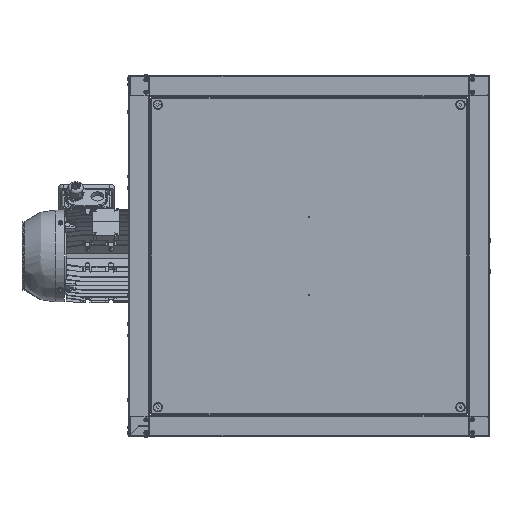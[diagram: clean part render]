
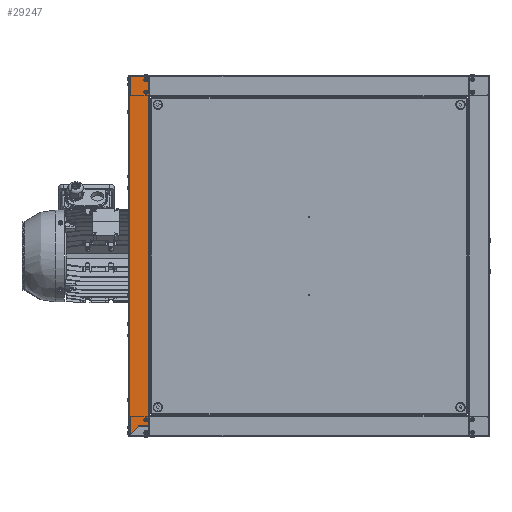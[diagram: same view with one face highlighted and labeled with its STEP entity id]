
A CAD part, left-side view. The second image highlights one B-rep face of the part: STEP entity #29247.
In plain terms, the highlighted planar face has unit normal (-1, 0, 0).
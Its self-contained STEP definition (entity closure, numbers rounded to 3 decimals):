
#1865 = EDGE_CURVE ( 'NONE', #81072, #49038, #36301, .T. ) ;
#3339 = LINE ( 'NONE', #57559, #93650 ) ;
#3594 = EDGE_CURVE ( 'NONE', #112916, #50335, #20878, .T. ) ;
#5886 = CARTESIAN_POINT ( 'NONE',  ( -350., 310.2, -310.05 ) ) ;
#7167 = DIRECTION ( 'NONE',  ( 0., -1., 0. ) ) ;
#7686 = CARTESIAN_POINT ( 'NONE',  ( -350., 318.1, 341.7 ) ) ;
#8093 = EDGE_LOOP ( 'NONE', ( #74028, #11283, #30084, #92585, #20680, #22820, #30484, #86463, #44252 ) ) ;
#9544 = LINE ( 'NONE', #47205, #27320 ) ;
#10149 = CARTESIAN_POINT ( 'NONE',  ( -350., 318.1, -317.2 ) ) ;
#10709 = LINE ( 'NONE', #59144, #77869 ) ;
#11283 = ORIENTED_EDGE ( 'NONE', *, *, #54176, .T. ) ;
#13090 = EDGE_CURVE ( 'NONE', #89307, #112494, #35640, .T. ) ;
#15229 = CARTESIAN_POINT ( 'NONE',  ( -350., 310.2, -329.1 ) ) ;
#18220 = LINE ( 'NONE', #107096, #108548 ) ;
#19171 = VERTEX_POINT ( 'NONE', #66068 ) ;
#20646 = EDGE_CURVE ( 'NONE', #55313, #104976, #113589, .T. ) ;
#20680 = ORIENTED_EDGE ( 'NONE', *, *, #79487, .T. ) ;
#20878 = CIRCLE ( 'NONE', #48992, 2.1 ) ;
#21362 = DIRECTION ( 'NONE',  ( 0., 1., 0. ) ) ;
#22672 = DIRECTION ( 'NONE',  ( 0., 1., 0. ) ) ;
#22820 = ORIENTED_EDGE ( 'NONE', *, *, #56760, .T. ) ;
#22951 = VECTOR ( 'NONE', #55156, 1000. ) ;
#23252 = VERTEX_POINT ( 'NONE', #72624 ) ;
#24840 = EDGE_CURVE ( 'NONE', #49038, #81072, #64537, .T. ) ;
#26621 = CARTESIAN_POINT ( 'NONE',  ( -350., 318.1, 317.2 ) ) ;
#26667 = AXIS2_PLACEMENT_3D ( 'NONE', #100503, #48103, #109251 ) ;
#27320 = VECTOR ( 'NONE', #108375, 1000. ) ;
#29247 = ADVANCED_FACE ( 'NONE', ( #88314, #41671, #70550, #111509 ), #73491, .F. ) ;
#30084 = ORIENTED_EDGE ( 'NONE', *, *, #86925, .F. ) ;
#30484 = ORIENTED_EDGE ( 'NONE', *, *, #99732, .F. ) ;
#33658 = ORIENTED_EDGE ( 'NONE', *, *, #91429, .F. ) ;
#34310 = DIRECTION ( 'NONE',  ( -1., 0., 0. ) ) ;
#34497 = AXIS2_PLACEMENT_3D ( 'NONE', #86752, #34310, #95486 ) ;
#35519 = CIRCLE ( 'NONE', #56305, 2.1 ) ;
#35640 = LINE ( 'NONE', #108956, #50680 ) ;
#36301 = CIRCLE ( 'NONE', #71651, 2.1 ) ;
#36652 = CARTESIAN_POINT ( 'NONE',  ( -350., 316., 317.2 ) ) ;
#37389 = CARTESIAN_POINT ( 'NONE',  ( -350., 348., 348. ) ) ;
#41564 = DIRECTION ( 'NONE',  ( 0., -1., 0. ) ) ;
#41671 = FACE_BOUND ( 'NONE', #66972, .T. ) ;
#42604 = CARTESIAN_POINT ( 'NONE',  ( -350., 316., 341.7 ) ) ;
#43134 = CARTESIAN_POINT ( 'NONE',  ( -350., 310.2, 311.65 ) ) ;
#44252 = ORIENTED_EDGE ( 'NONE', *, *, #92758, .T. ) ;
#44752 = CARTESIAN_POINT ( 'NONE',  ( -350., 329.75, -329.1 ) ) ;
#45397 = DIRECTION ( 'NONE',  ( 0., -1., 0. ) ) ;
#46314 = CARTESIAN_POINT ( 'NONE',  ( -350., 348., 348.95 ) ) ;
#47205 = CARTESIAN_POINT ( 'NONE',  ( -350., 310.2, -310.05 ) ) ;
#47987 = EDGE_CURVE ( 'NONE', #68154, #19171, #93126, .T. ) ;
#48103 = DIRECTION ( 'NONE',  ( -1., 0., 0. ) ) ;
#48992 = AXIS2_PLACEMENT_3D ( 'NONE', #111915, #59609, #7167 ) ;
#49038 = VERTEX_POINT ( 'NONE', #96560 ) ;
#50335 = VERTEX_POINT ( 'NONE', #54910 ) ;
#50680 = VECTOR ( 'NONE', #109336, 1000. ) ;
#50961 = AXIS2_PLACEMENT_3D ( 'NONE', #108592, #73883, #21362 ) ;
#51093 = CARTESIAN_POINT ( 'NONE',  ( -350., 316., -317.2 ) ) ;
#51481 = DIRECTION ( 'NONE',  ( 0., -1., 0. ) ) ;
#52395 = DIRECTION ( 'NONE',  ( 0., 0., 1. ) ) ;
#54176 = EDGE_CURVE ( 'NONE', #112494, #97448, #69565, .T. ) ;
#54910 = CARTESIAN_POINT ( 'NONE',  ( -350., 313.9, 317.2 ) ) ;
#55156 = DIRECTION ( 'NONE',  ( 0., 0., -1. ) ) ;
#55161 = ORIENTED_EDGE ( 'NONE', *, *, #1865, .F. ) ;
#55313 = VERTEX_POINT ( 'NONE', #44752 ) ;
#56305 = AXIS2_PLACEMENT_3D ( 'NONE', #36652, #97790, #45397 ) ;
#56760 = EDGE_CURVE ( 'NONE', #85946, #74964, #3339, .T. ) ;
#57559 = CARTESIAN_POINT ( 'NONE',  ( -350., 310.7, -310.05 ) ) ;
#58722 = CARTESIAN_POINT ( 'NONE',  ( -350., 310.7, -310.05 ) ) ;
#59144 = CARTESIAN_POINT ( 'NONE',  ( -350., 310.7, 348.95 ) ) ;
#59609 = DIRECTION ( 'NONE',  ( -1., 0., 0. ) ) ;
#59920 = DIRECTION ( 'NONE',  ( 0., -1., 0. ) ) ;
#61723 = EDGE_LOOP ( 'NONE', ( #33658, #102207 ) ) ;
#64300 = ORIENTED_EDGE ( 'NONE', *, *, #3594, .F. ) ;
#64537 = CIRCLE ( 'NONE', #34497, 2.1 ) ;
#66068 = CARTESIAN_POINT ( 'NONE',  ( -350., 313.9, 341.7 ) ) ;
#66704 = ORIENTED_EDGE ( 'NONE', *, *, #24840, .F. ) ;
#66972 = EDGE_LOOP ( 'NONE', ( #104666, #64300 ) ) ;
#68154 = VERTEX_POINT ( 'NONE', #7686 ) ;
#69565 = LINE ( 'NONE', #46314, #22951 ) ;
#70550 = FACE_BOUND ( 'NONE', #61723, .T. ) ;
#71651 = AXIS2_PLACEMENT_3D ( 'NONE', #51093, #112221, #59920 ) ;
#72624 = CARTESIAN_POINT ( 'NONE',  ( -350., 310.7, 311.65 ) ) ;
#73491 = PLANE ( 'NONE',  #50961 ) ;
#73883 = DIRECTION ( 'NONE',  ( 1., 0., 0. ) ) ;
#74028 = ORIENTED_EDGE ( 'NONE', *, *, #13090, .T. ) ;
#74112 = AXIS2_PLACEMENT_3D ( 'NONE', #42604, #103845, #51481 ) ;
#74826 = VECTOR ( 'NONE', #79191, 1000. ) ;
#74964 = VERTEX_POINT ( 'NONE', #58722 ) ;
#76171 = CARTESIAN_POINT ( 'NONE',  ( -350., 310.2, -329.1 ) ) ;
#77437 = CARTESIAN_POINT ( 'NONE',  ( -350., 310.2, 311.65 ) ) ;
#77869 = VECTOR ( 'NONE', #85157, 1000. ) ;
#79191 = DIRECTION ( 'NONE',  ( 0., 0.707, -0.707 ) ) ;
#79487 = EDGE_CURVE ( 'NONE', #104976, #85946, #9544, .T. ) ;
#81072 = VERTEX_POINT ( 'NONE', #10149 ) ;
#84600 = VERTEX_POINT ( 'NONE', #77437 ) ;
#85157 = DIRECTION ( 'NONE',  ( 0., 0., -1. ) ) ;
#85946 = VERTEX_POINT ( 'NONE', #5886 ) ;
#86463 = ORIENTED_EDGE ( 'NONE', *, *, #89079, .T. ) ;
#86752 = CARTESIAN_POINT ( 'NONE',  ( -350., 316., -317.2 ) ) ;
#86925 = EDGE_CURVE ( 'NONE', #55313, #97448, #98000, .T. ) ;
#88123 = VECTOR ( 'NONE', #52395, 1000. ) ;
#88314 = FACE_BOUND ( 'NONE', #103538, .T. ) ;
#89079 = EDGE_CURVE ( 'NONE', #23252, #84600, #18220, .T. ) ;
#89307 = VERTEX_POINT ( 'NONE', #102839 ) ;
#90377 = VECTOR ( 'NONE', #41564, 1000. ) ;
#91429 = EDGE_CURVE ( 'NONE', #19171, #68154, #96521, .T. ) ;
#92585 = ORIENTED_EDGE ( 'NONE', *, *, #20646, .T. ) ;
#92758 = EDGE_CURVE ( 'NONE', #84600, #89307, #111302, .T. ) ;
#93126 = CIRCLE ( 'NONE', #26667, 2.1 ) ;
#93650 = VECTOR ( 'NONE', #22672, 1000. ) ;
#95486 = DIRECTION ( 'NONE',  ( 0., -1., 0. ) ) ;
#96521 = CIRCLE ( 'NONE', #74112, 2.1 ) ;
#96560 = CARTESIAN_POINT ( 'NONE',  ( -350., 313.9, -317.2 ) ) ;
#97448 = VERTEX_POINT ( 'NONE', #103470 ) ;
#97790 = DIRECTION ( 'NONE',  ( -1., 0., 0. ) ) ;
#98000 = LINE ( 'NONE', #105121, #74826 ) ;
#99732 = EDGE_CURVE ( 'NONE', #23252, #74964, #10709, .T. ) ;
#100503 = CARTESIAN_POINT ( 'NONE',  ( -350., 316., 341.7 ) ) ;
#102207 = ORIENTED_EDGE ( 'NONE', *, *, #47987, .F. ) ;
#102839 = CARTESIAN_POINT ( 'NONE',  ( -350., 310.2, 348. ) ) ;
#103470 = CARTESIAN_POINT ( 'NONE',  ( -350., 348., -347.35 ) ) ;
#103538 = EDGE_LOOP ( 'NONE', ( #66704, #55161 ) ) ;
#103845 = DIRECTION ( 'NONE',  ( -1., 0., 0. ) ) ;
#104666 = ORIENTED_EDGE ( 'NONE', *, *, #112421, .F. ) ;
#104976 = VERTEX_POINT ( 'NONE', #76171 ) ;
#105121 = CARTESIAN_POINT ( 'NONE',  ( -350., 349.1, -348.45 ) ) ;
#107096 = CARTESIAN_POINT ( 'NONE',  ( -350., 310.7, 311.65 ) ) ;
#107473 = DIRECTION ( 'NONE',  ( 0., -1., 0. ) ) ;
#108375 = DIRECTION ( 'NONE',  ( 0., 0., 1. ) ) ;
#108548 = VECTOR ( 'NONE', #107473, 1000. ) ;
#108592 = CARTESIAN_POINT ( 'NONE',  ( -350., 350., 348.95 ) ) ;
#108956 = CARTESIAN_POINT ( 'NONE',  ( -350., 310.2, 348. ) ) ;
#109251 = DIRECTION ( 'NONE',  ( 0., -1., 0. ) ) ;
#109336 = DIRECTION ( 'NONE',  ( 0., 1., 0. ) ) ;
#111302 = LINE ( 'NONE', #43134, #88123 ) ;
#111509 = FACE_OUTER_BOUND ( 'NONE', #8093, .T. ) ;
#111915 = CARTESIAN_POINT ( 'NONE',  ( -350., 316., 317.2 ) ) ;
#112221 = DIRECTION ( 'NONE',  ( -1., 0., 0. ) ) ;
#112421 = EDGE_CURVE ( 'NONE', #50335, #112916, #35519, .T. ) ;
#112494 = VERTEX_POINT ( 'NONE', #37389 ) ;
#112916 = VERTEX_POINT ( 'NONE', #26621 ) ;
#113589 = LINE ( 'NONE', #15229, #90377 ) ;
